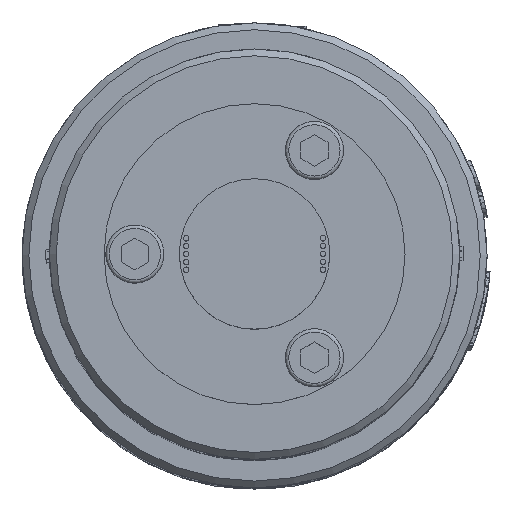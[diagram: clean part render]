
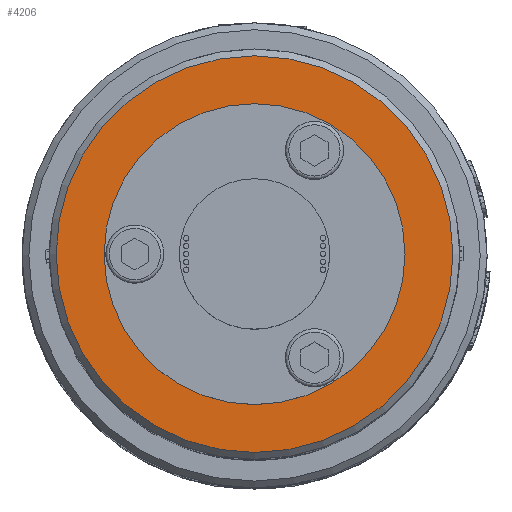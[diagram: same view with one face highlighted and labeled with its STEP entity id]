
A CAD part, top view. The second image highlights one B-rep face of the part: STEP entity #4206.
In plain terms, the highlighted planar face has unit normal (0, 0, 1).
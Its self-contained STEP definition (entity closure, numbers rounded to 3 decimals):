
#916=FACE_BOUND('',#9362,.T.);
#917=FACE_BOUND('',#9363,.T.);
#1394=CIRCLE('',#27580,29.);
#1405=CIRCLE('',#27623,22.);
#2175=PLANE('',#27624);
#4206=ADVANCED_FACE('',(#916,#917),#2175,.T.);
#9362=EDGE_LOOP('',(#15649));
#9363=EDGE_LOOP('',(#15650));
#15649=ORIENTED_EDGE('',*,*,#22795,.T.);
#15650=ORIENTED_EDGE('',*,*,#22860,.F.);
#19260=VERTEX_POINT('',#50423);
#19307=VERTEX_POINT('',#50567);
#22795=EDGE_CURVE('',#19260,#19260,#1394,.T.);
#22860=EDGE_CURVE('',#19307,#19307,#1405,.T.);
#27580=AXIS2_PLACEMENT_3D('',#50422,#31326,#31327);
#27623=AXIS2_PLACEMENT_3D('',#50566,#31466,#31467);
#27624=AXIS2_PLACEMENT_3D('',#50568,#31468,#31469);
#31326=DIRECTION('',(0.,0.,1.));
#31327=DIRECTION('',(1.,0.,0.));
#31466=DIRECTION('',(0.,0.,1.));
#31467=DIRECTION('',(1.,0.,0.));
#31468=DIRECTION('',(0.,0.,1.));
#31469=DIRECTION('',(1.,0.,0.));
#50422=CARTESIAN_POINT('',(0.,0.,233.));
#50423=CARTESIAN_POINT('',(29.,0.,233.));
#50566=CARTESIAN_POINT('',(0.,0.,233.));
#50567=CARTESIAN_POINT('',(22.,0.,233.));
#50568=CARTESIAN_POINT('',(0.,0.,233.));
